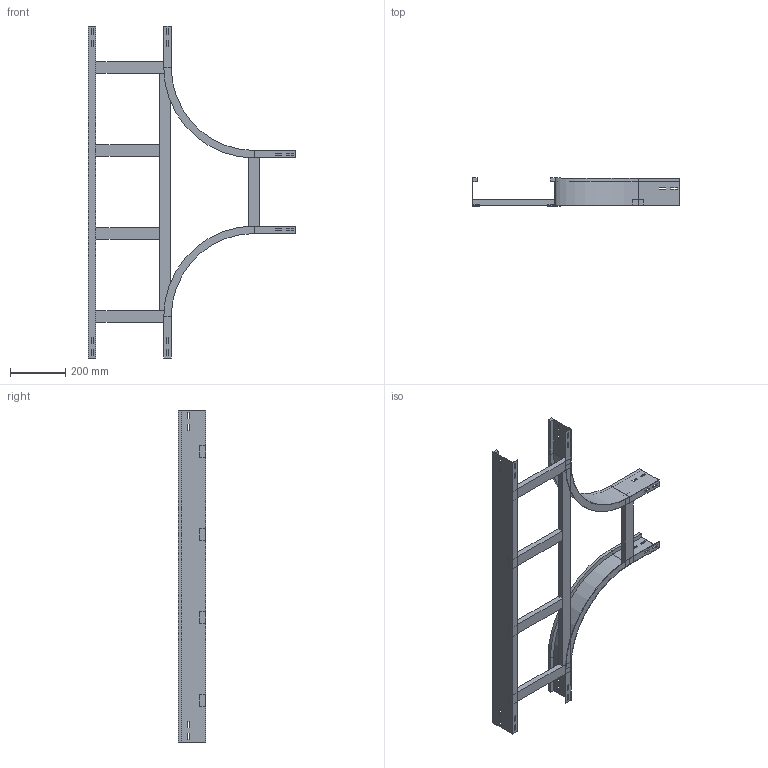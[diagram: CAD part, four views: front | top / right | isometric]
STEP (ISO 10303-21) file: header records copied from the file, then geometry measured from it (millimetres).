
FILE_DESCRIPTION (( 'STEP AP214' ), '1' );
FILE_NAME ('A2_15B3D300.step', '2025-02-21T15:49:32', ( '' ), ( '' ), 'SwSTEP 2.0', 'SolidWorks 2023', '' );
FILE_SCHEMA (( 'AUTOMOTIVE_DESIGN' ));
Length unit declared in the file: millimetre
Products named in the file (6): A2_LONGH.INTERNO 90°_H100_R300; A2_TRAVERSINO_LONG._R300+300; TRAVERSINO_INTERMEDIO_R300+300; A2_LONGH.RETT_H100_R300+300; A2_15B3D300; TRAVERSINO_300
Assembly tree (9 placements, depth 2):
  A2_15B3D300
    A2_LONGH.INTERNO 90°_H100_R300  x2
    A2_LONGH.RETT_H100_R300+300
    TRAVERSINO_300  x3
    A2_TRAVERSINO_LONG._R300+300
    TRAVERSINO_INTERMEDIO_R300+300  x2
Bounding box: 750 x 100 x 1200 mm (x, y, z)
Volume: 3043106 mm3; surface area: 1070075.3 mm2
Topology: 9 solids, 9 shells, 194 faces, 496 edges, 320 vertices
Faces by surface type: plane 186, cylinder 8
Entity records: 3815 total; most frequent: CARTESIAN_POINT 638, ORIENTED_EDGE 616, DIRECTION 576, EDGE_CURVE 308, LINE 300, VECTOR 300, VERTEX_POINT 200, EDGE_LOOP 150
